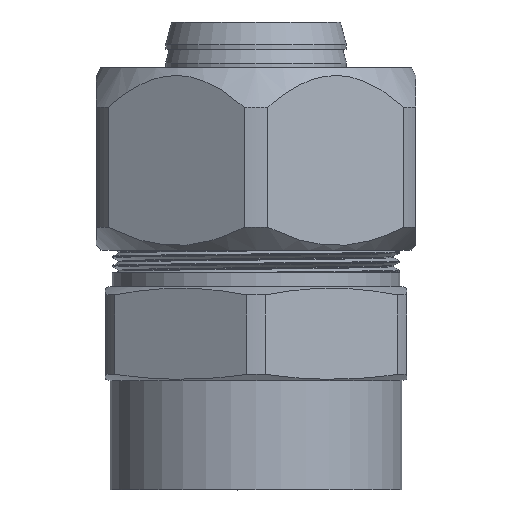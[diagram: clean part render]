
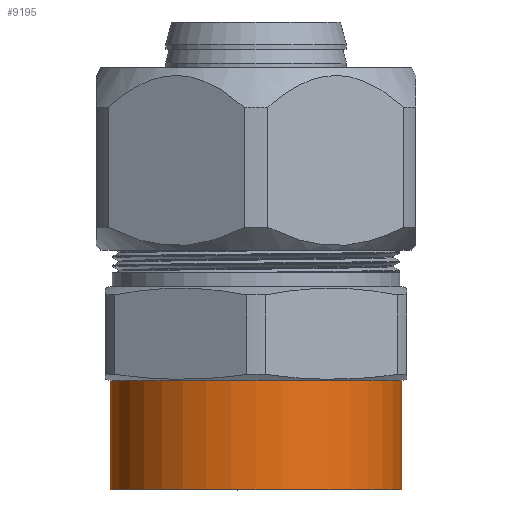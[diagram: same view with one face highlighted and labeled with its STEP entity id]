
A CAD part, front view. The second image highlights one B-rep face of the part: STEP entity #9195.
In plain terms, the highlighted cylindrical face has radius 16 mm (diameter 32 mm), a full revolution.
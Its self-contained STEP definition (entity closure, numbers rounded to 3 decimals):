
#1193=CYLINDRICAL_SURFACE('',#9855,16.);
#1303=FACE_OUTER_BOUND('',#1838,.T.);
#1838=EDGE_LOOP('',(#6339,#6340,#6341,#6342,#6343,#6344));
#2419=LINE('',#12119,#2958);
#2958=VECTOR('',#10474,16.);
#3484=CIRCLE('',#9805,16.);
#3485=CIRCLE('',#9806,16.);
#3512=CIRCLE('',#9853,16.);
#3513=CIRCLE('',#9854,16.);
#3770=VERTEX_POINT('',#11993);
#3771=VERTEX_POINT('',#11995);
#3804=VERTEX_POINT('',#12114);
#3805=VERTEX_POINT('',#12115);
#4763=EDGE_CURVE('',#3771,#3770,#3484,.T.);
#4764=EDGE_CURVE('',#3770,#3771,#3485,.T.);
#4815=EDGE_CURVE('',#3804,#3805,#3512,.T.);
#4816=EDGE_CURVE('',#3805,#3804,#3513,.T.);
#4817=EDGE_CURVE('',#3771,#3805,#2419,.T.);
#6339=ORIENTED_EDGE('',*,*,#4763,.T.);
#6340=ORIENTED_EDGE('',*,*,#4764,.T.);
#6341=ORIENTED_EDGE('',*,*,#4817,.T.);
#6342=ORIENTED_EDGE('',*,*,#4816,.T.);
#6343=ORIENTED_EDGE('',*,*,#4815,.T.);
#6344=ORIENTED_EDGE('',*,*,#4817,.F.);
#9195=ADVANCED_FACE('',(#1303),#1193,.T.);
#9805=AXIS2_PLACEMENT_3D('',#11996,#10355,#10356);
#9806=AXIS2_PLACEMENT_3D('',#11997,#10357,#10358);
#9853=AXIS2_PLACEMENT_3D('',#12116,#10468,#10469);
#9854=AXIS2_PLACEMENT_3D('',#12117,#10470,#10471);
#9855=AXIS2_PLACEMENT_3D('',#12118,#10472,#10473);
#10355=DIRECTION('center_axis',(0.,0.,-1.));
#10356=DIRECTION('ref_axis',(0.,-1.,0.));
#10357=DIRECTION('center_axis',(0.,0.,-1.));
#10358=DIRECTION('ref_axis',(0.,-1.,0.));
#10468=DIRECTION('center_axis',(0.,0.,1.));
#10469=DIRECTION('ref_axis',(1.,0.,0.));
#10470=DIRECTION('center_axis',(0.,0.,1.));
#10471=DIRECTION('ref_axis',(1.,0.,0.));
#10472=DIRECTION('center_axis',(0.,0.,1.));
#10473=DIRECTION('ref_axis',(0.,-1.,0.));
#10474=DIRECTION('',(0.,0.,-1.));
#11993=CARTESIAN_POINT('',(0.,-16.,12.01));
#11995=CARTESIAN_POINT('',(0.,16.,12.01));
#11996=CARTESIAN_POINT('Origin',(0.,0.,12.01));
#11997=CARTESIAN_POINT('Origin',(0.,0.,12.01));
#12114=CARTESIAN_POINT('',(0.,-16.,0.01));
#12115=CARTESIAN_POINT('',(0.,16.,0.01));
#12116=CARTESIAN_POINT('Origin',(0.,0.,0.01));
#12117=CARTESIAN_POINT('Origin',(0.,0.,0.01));
#12118=CARTESIAN_POINT('Origin',(0.,0.,11.16));
#12119=CARTESIAN_POINT('',(0.,16.,11.16));
